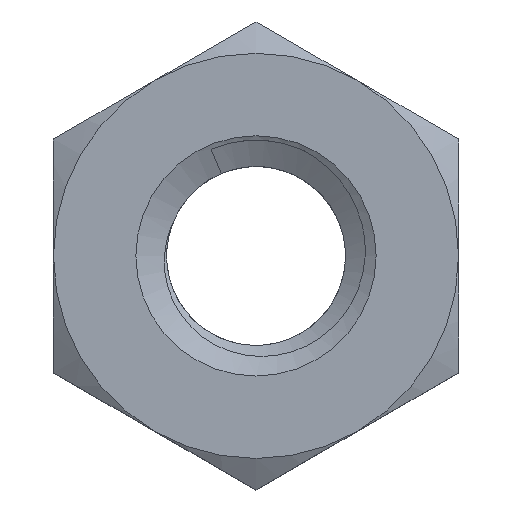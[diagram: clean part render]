
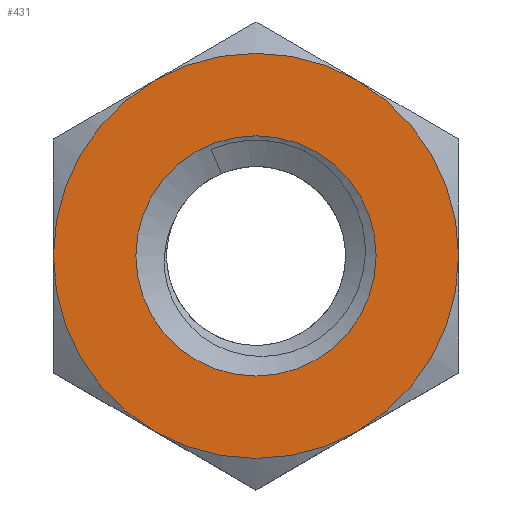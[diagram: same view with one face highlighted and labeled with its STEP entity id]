
A CAD part, top view. The second image highlights one B-rep face of the part: STEP entity #431.
In plain terms, the highlighted planar face has unit normal (0, 0, 1).
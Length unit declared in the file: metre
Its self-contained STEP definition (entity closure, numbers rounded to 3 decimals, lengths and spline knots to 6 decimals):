
#49=PLANE('',#477);
#107=ORIENTED_EDGE('',*,*,#237,.T.);
#108=ORIENTED_EDGE('',*,*,#238,.T.);
#109=ORIENTED_EDGE('',*,*,#239,.T.);
#110=ORIENTED_EDGE('',*,*,#240,.T.);
#111=ORIENTED_EDGE('',*,*,#241,.T.);
#112=ORIENTED_EDGE('',*,*,#242,.T.);
#113=ORIENTED_EDGE('',*,*,#243,.F.);
#237=EDGE_CURVE('',#299,#300,#339,.T.);
#238=EDGE_CURVE('',#300,#301,#340,.T.);
#239=EDGE_CURVE('',#301,#302,#341,.T.);
#240=EDGE_CURVE('',#302,#303,#342,.T.);
#241=EDGE_CURVE('',#303,#304,#343,.T.);
#242=EDGE_CURVE('',#304,#299,#344,.T.);
#243=EDGE_CURVE('',#305,#305,#345,.T.);
#299=VERTEX_POINT('',#677);
#300=VERTEX_POINT('',#678);
#301=VERTEX_POINT('',#680);
#302=VERTEX_POINT('',#682);
#303=VERTEX_POINT('',#684);
#304=VERTEX_POINT('',#686);
#305=VERTEX_POINT('',#689);
#339=CIRCLE('',#478,0.0035);
#340=CIRCLE('',#479,0.0035);
#341=CIRCLE('',#480,0.0035);
#342=CIRCLE('',#481,0.0035);
#343=CIRCLE('',#482,0.0035);
#344=CIRCLE('',#483,0.0035);
#345=CIRCLE('',#484,0.002076);
#358=EDGE_LOOP('',(#107,#108,#109,#110,#111,#112));
#359=EDGE_LOOP('',(#113));
#388=FACE_BOUND('',#358,.T.);
#389=FACE_BOUND('',#359,.T.);
#431=ADVANCED_FACE('',(#388,#389),#49,.T.);
#477=AXIS2_PLACEMENT_3D('',#675,#535,#536);
#478=AXIS2_PLACEMENT_3D('',#676,#537,#538);
#479=AXIS2_PLACEMENT_3D('',#679,#539,#540);
#480=AXIS2_PLACEMENT_3D('',#681,#541,#542);
#481=AXIS2_PLACEMENT_3D('',#683,#543,#544);
#482=AXIS2_PLACEMENT_3D('',#685,#545,#546);
#483=AXIS2_PLACEMENT_3D('',#687,#547,#548);
#484=AXIS2_PLACEMENT_3D('',#688,#549,#550);
#535=DIRECTION('',(0.,0.,1.));
#536=DIRECTION('',(1.,0.,0.));
#537=DIRECTION('',(0.,0.,1.));
#538=DIRECTION('',(1.,0.,0.));
#539=DIRECTION('',(0.,0.,1.));
#540=DIRECTION('',(1.,0.,0.));
#541=DIRECTION('',(0.,0.,1.));
#542=DIRECTION('',(1.,0.,0.));
#543=DIRECTION('',(0.,0.,1.));
#544=DIRECTION('',(1.,0.,0.));
#545=DIRECTION('',(0.,0.,1.));
#546=DIRECTION('',(1.,0.,0.));
#547=DIRECTION('',(0.,0.,1.));
#548=DIRECTION('',(1.,0.,0.));
#549=DIRECTION('',(0.,0.,1.));
#550=DIRECTION('',(1.,0.,0.));
#675=CARTESIAN_POINT('',(0.,0.,0.0011));
#676=CARTESIAN_POINT('',(0.,0.,0.0011));
#677=CARTESIAN_POINT('',(0.00175,-0.003031,0.0011));
#678=CARTESIAN_POINT('',(0.0035,0.,0.0011));
#679=CARTESIAN_POINT('',(0.,0.,0.0011));
#680=CARTESIAN_POINT('',(0.00175,0.003031,0.0011));
#681=CARTESIAN_POINT('',(0.,0.,0.0011));
#682=CARTESIAN_POINT('',(-0.00175,0.003031,0.0011));
#683=CARTESIAN_POINT('',(0.,0.,0.0011));
#684=CARTESIAN_POINT('',(-0.0035,0.,0.0011));
#685=CARTESIAN_POINT('',(0.,0.,0.0011));
#686=CARTESIAN_POINT('',(-0.00175,-0.003031,0.0011));
#687=CARTESIAN_POINT('',(0.,0.,0.0011));
#688=CARTESIAN_POINT('',(0.,0.,0.0011));
#689=CARTESIAN_POINT('',(0.002076,0.,0.0011));
